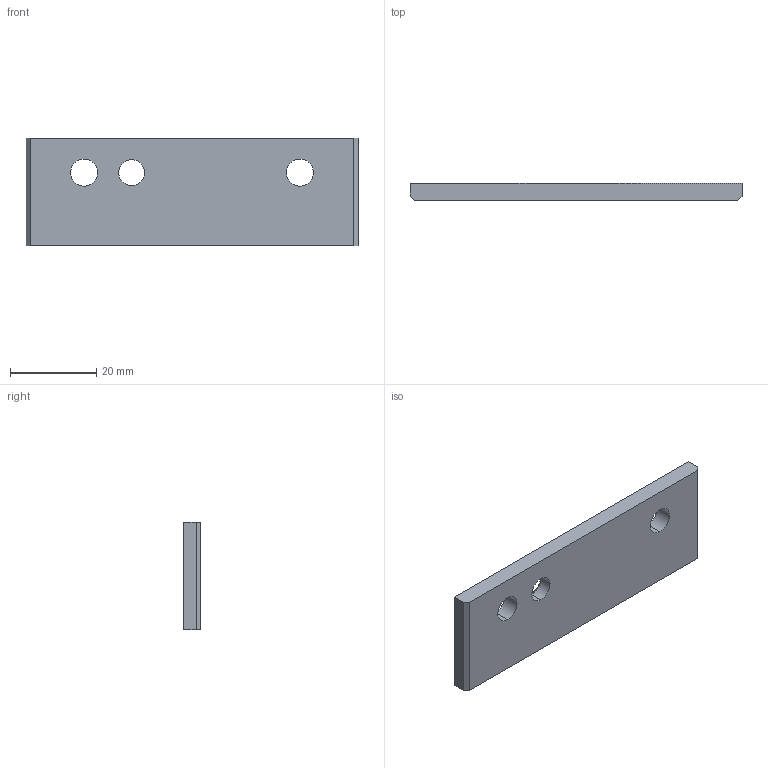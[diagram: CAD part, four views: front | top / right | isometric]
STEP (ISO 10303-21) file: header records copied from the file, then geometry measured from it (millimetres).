
FILE_DESCRIPTION (( 'STEP AP214' ), '1' );
FILE_NAME ('10132V000_Niederhalter_Anschlag_Index_4.STEP', '2014-11-19T12:20:08', ( 'Admin' ), ( '' ), 'SwSTEP 2.0', 'SolidWorks 2014', '' );
FILE_SCHEMA (( 'AUTOMOTIVE_DESIGN' ));
Length unit declared in the file: millimetre
Products named in the file (1): 10132V000_Niederhalter_Anschlag_Index_4
Bounding box: 77 x 4 x 25 mm (x, y, z)
Volume: 7300.4 mm3; surface area: 4685.2 mm2
Topology: 1 solids, 1 shells, 81 faces, 208 edges, 138 vertices
Faces by surface type: plane 37, bspline 36, cylinder 6, cone 2
Entity records: 4658 total; most frequent: CARTESIAN_POINT 2872, ORIENTED_EDGE 416, DIRECTION 242, EDGE_CURVE 208, VERTEX_POINT 138, VECTOR 122, LINE 122, EDGE_LOOP 96
